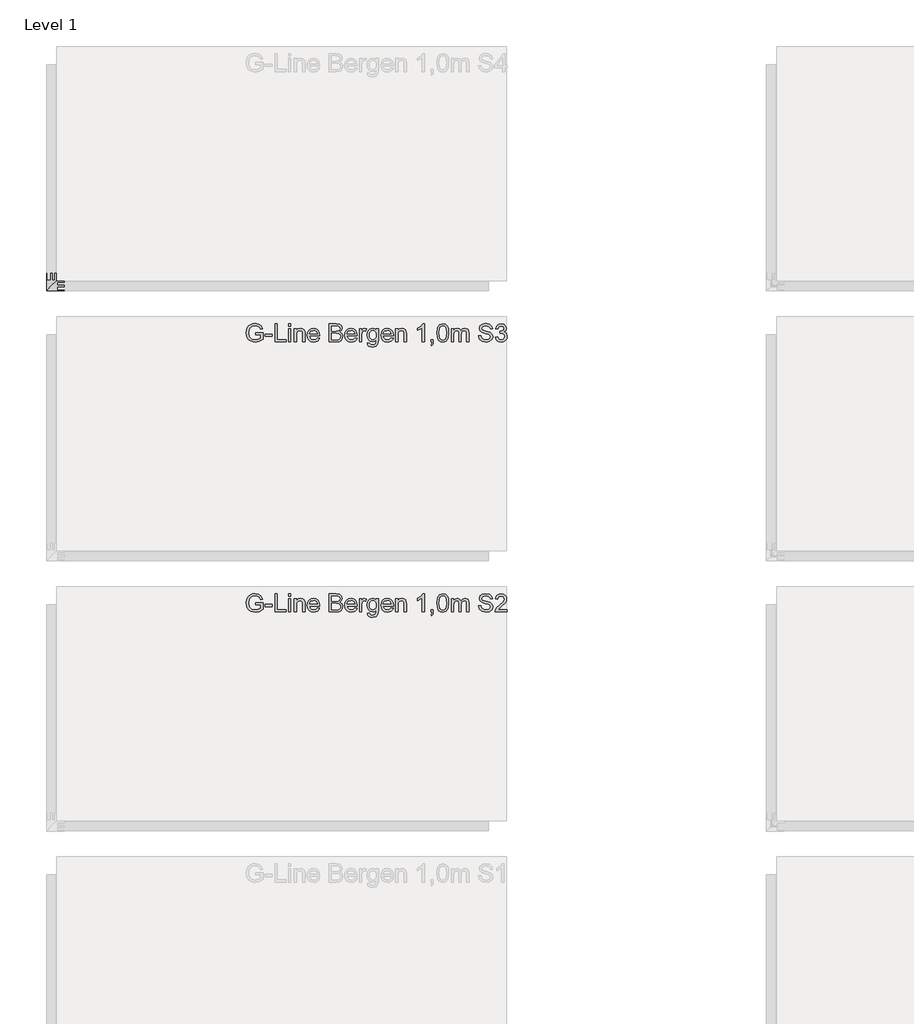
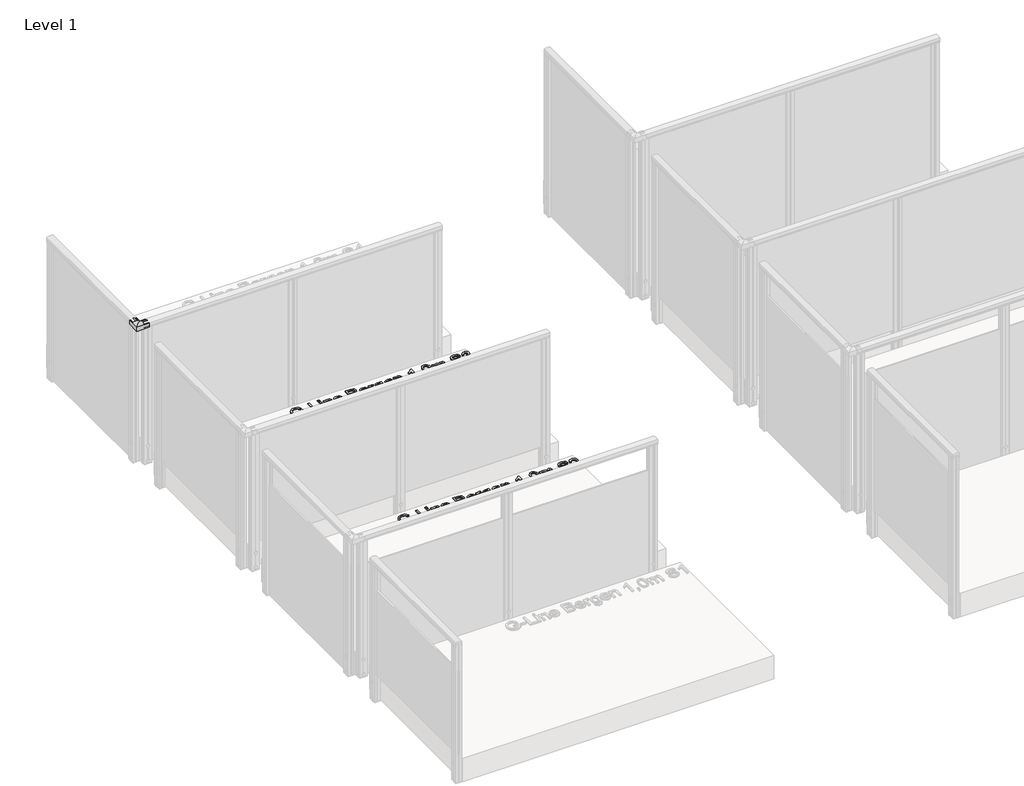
# One storey, part 57 of 66: 3 proxies.
"""IFC4 building model written with IfcOpenShell, lengths in millimetres."""

import ifcopenshell
import ifcopenshell.guid

model = None  # the IFC model being written
_history = None  # IfcOwnerHistory: only IFC2X3 demands one
_inside = {}  # id of a spatial element -> (the spatial element, [elements in it])
_under = {}  # id of a project, library or spatial element -> (it, [spatial elements below it])
_declared = {}  # id of a project -> (the project, [libraries it declares])
_typed = {}  # id of a type object -> (the type object, [elements of that type])
_made_of = {}  # id of a material, layer set ... -> (it, [elements and type objects made of it])


def new_model(schema):
    """Start an empty IFC model of exactly this schema.

    Asked for "IFC4X3", IfcOpenShell would pick the latest addendum, in which some entities
    have other attributes; the version numbers below select the first issue.
    IFC2X3 requires an IfcOwnerHistory on every rooted entity: one is made here for all.
    """
    global model, _history
    if schema == "IFC4X3":
        model = ifcopenshell.file(schema_version=(4, 3, 0, 0))
    else:
        model = ifcopenshell.file(schema=schema)
    _inside.clear()
    _under.clear()
    _declared.clear()
    _typed.clear()
    _made_of.clear()
    _history = None
    if model.schema == "IFC2X3":
        org = make("IfcOrganization", Name="unknown")
        user = make(
            "IfcPersonAndOrganization",
            ThePerson=make("IfcPerson", FamilyName="unknown"),
            TheOrganization=org,
        )
        app = make(
            "IfcApplication",
            ApplicationDeveloper=org,
            Version="unknown",
            ApplicationFullName="unknown",
            ApplicationIdentifier="unknown",
        )
        _history = make(
            "IfcOwnerHistory",
            OwningUser=user,
            OwningApplication=app,
            ChangeAction="ADDED",
            CreationDate=0,
        )
    return model


def make(cls, **values):
    """One entity of the class cls with the attributes given. An attribute that is None is left unset."""
    return model.create_entity(
        cls, **{name: value for name, value in values.items() if value is not None}
    )


def rooted(cls, **values):
    """An entity with a GlobalId (a new one), such as an element, a storey or a relation."""
    return make(cls, GlobalId=ifcopenshell.guid.new(), OwnerHistory=_history, **values)


def si_unit(unit_type, name, prefix=None):
    """IfcSIUnit, for example si_unit("LENGTHUNIT", "METRE", prefix="MILLI")."""
    return make("IfcSIUnit", UnitType=unit_type, Prefix=prefix, Name=name)


def assignment(units):
    """IfcUnitAssignment: the units of a project."""
    return None if units is None else make("IfcUnitAssignment", Units=units)


def point(xyz):
    """IfcCartesianPoint."""
    return None if xyz is None else make("IfcCartesianPoint", Coordinates=xyz)


def direction(xyz):
    """IfcDirection."""
    return None if xyz is None else make("IfcDirection", DirectionRatios=xyz)


def frame(location, z_axis=None, x_axis=None):
    """IfcAxis2Placement3D, a coordinate frame: its origin and axes. An axis left out is left unset."""
    return make(
        "IfcAxis2Placement3D",
        Location=point(location),
        Axis=direction(z_axis),
        RefDirection=direction(x_axis),
    )


def origin():
    """The frame at (0, 0, 0) with its axes left unset."""
    return frame((0.0, 0.0, 0.0))


def origin_with_axes():
    """The frame at (0, 0, 0) with the z axis (0, 0, 1) and the x axis (1, 0, 0) written out."""
    return frame((0.0, 0.0, 0.0), z_axis=(0.0, 0.0, 1.0), x_axis=(1.0, 0.0, 0.0))


def place(relative_to, where):
    """IfcLocalPlacement: puts the frame where relative to a parent placement (None: the world)."""
    return make(
        "IfcLocalPlacement", PlacementRelTo=relative_to, RelativePlacement=where
    )


def context(
    kind, dimensions, precision=None, world=None, true_north=None, identifier=None
):
    """IfcGeometricRepresentationContext, for example the 3D "Model" context."""
    return make(
        "IfcGeometricRepresentationContext",
        ContextIdentifier=identifier,
        ContextType=kind,
        CoordinateSpaceDimension=dimensions,
        Precision=precision,
        WorldCoordinateSystem=world,
        TrueNorth=true_north,
    )


def project(units=None, contexts=None):
    """IfcProject with its units and contexts."""
    return rooted(
        "IfcProject",
        Name="project",
        RepresentationContexts=contexts,
        UnitsInContext=assignment(units),
    )


def spatial(cls, under=None, at=None, **own):
    """A site, building, storey or space (cls), placed at a placement, below another one or the project."""
    s = rooted(cls, ObjectPlacement=at, **own)
    if under is not None:
        _under.setdefault(under.id(), (under, []))[1].append(s)
    return s


def polyline(points):
    """IfcPolyline through the points."""
    return make("IfcPolyline", Points=[point(p) for p in points])


def circle_curve(where, radius):
    """IfcCircle in the frame where."""
    return make("IfcCircle", Position=where, Radius=radius)


def ellipse_curve(where, semi_axis1, semi_axis2):
    """IfcEllipse in the frame where."""
    return make(
        "IfcEllipse", Position=where, SemiAxis1=semi_axis1, SemiAxis2=semi_axis2
    )


def outline(outer, holes=None, kind="AREA"):
    """IfcArbitraryClosedProfileDef: a profile drawn as a closed curve; with holes, ...WithVoids."""
    if holes is None:
        return make("IfcArbitraryClosedProfileDef", ProfileType=kind, OuterCurve=outer)
    return make(
        "IfcArbitraryProfileDefWithVoids",
        ProfileType=kind,
        OuterCurve=outer,
        InnerCurves=holes,
    )


def extrude(swept, where, along, depth):
    """IfcExtrudedAreaSolid: the profile swept, set in the frame where, extruded along a direction by depth."""
    return make(
        "IfcExtrudedAreaSolid",
        SweptArea=swept,
        Position=where,
        ExtrudedDirection=direction(along),
        Depth=depth,
    )


def shape(context_of_items, identifier, shape_type, items):
    """IfcShapeRepresentation: the items that make up one representation, for example the "Body"."""
    return make(
        "IfcShapeRepresentation",
        ContextOfItems=context_of_items,
        RepresentationIdentifier=identifier,
        RepresentationType=shape_type,
        Items=items,
    )


def source(mapping_origin, context_of_items, identifier, shape_type, items):
    """IfcRepresentationMap: a shape defined once, which mapped items show again and again."""
    return make(
        "IfcRepresentationMap",
        MappingOrigin=mapping_origin,
        MappedRepresentation=shape(context_of_items, identifier, shape_type, items),
    )


def transform(
    local_origin,
    x_axis=None,
    y_axis=None,
    z_axis=None,
    scale=None,
    scale2=None,
    scale3=None,
    uniform=True,
):
    """IfcCartesianTransformationOperator3D, or its non-uniform kind. x_axis, y_axis, z_axis: its Axis1, 2, 3."""
    if uniform:
        return make(
            "IfcCartesianTransformationOperator3D",
            Axis1=direction(x_axis),
            Axis2=direction(y_axis),
            LocalOrigin=point(local_origin),
            Scale=scale,
            Axis3=direction(z_axis),
        )
    return make(
        "IfcCartesianTransformationOperator3DnonUniform",
        Axis1=direction(x_axis),
        Axis2=direction(y_axis),
        LocalOrigin=point(local_origin),
        Scale=scale,
        Axis3=direction(z_axis),
        Scale2=scale2,
        Scale3=scale3,
    )


def mapped(mapping_source, mapping_target):
    """IfcMappedItem: shows the shape of a source again, moved by a transform."""
    return make(
        "IfcMappedItem", MappingSource=mapping_source, MappingTarget=mapping_target
    )


def made_of(thing, what):
    """Note that an element or type object is made of a material, layer set ...; save() writes the relation."""
    if what is not None:
        _made_of.setdefault(what.id(), (what, []))[1].append(thing)
    return thing


def element(
    cls,
    number,
    at=None,
    inside=None,
    cuts=None,
    type_object=None,
    material=None,
    context=None,
    identifier="Body",
    shape_type=None,
    held_by="IfcProductDefinitionShape",
    body=None,
    shapes=None,
    **own,
):
    """One element of the class cls, such as IfcWall. Its Tag is "e" and its number.

    at: its placement. inside: the storey or other place that contains it. cuts: it is an
    opening in that element (IfcRelVoidsElement). A single representation is given by context,
    identifier, shape_type and body (its items); several are given by shapes. held_by: the class
    of the entity that holds the representations. save() writes the other relations.
    """
    e = rooted(cls, Tag="e%d" % number, ObjectPlacement=at, **own)
    if body is not None:
        shapes = [shape(context, identifier, shape_type, body)]
    if shapes is not None:
        e.Representation = make(held_by, Representations=shapes)
    if inside is not None:
        _inside.setdefault(inside.id(), (inside, []))[1].append(e)
    if cuts is not None:
        rooted(
            "IfcRelVoidsElement", RelatingBuildingElement=cuts, RelatedOpeningElement=e
        )
    if type_object is not None:
        _typed.setdefault(type_object.id(), (type_object, []))[1].append(e)
    return made_of(e, material)


def aggregate(whole, parts):
    """IfcRelAggregates: a whole, such as a stair, and the parts it consists of."""
    return rooted("IfcRelAggregates", RelatingObject=whole, RelatedObjects=parts)


def save(model, path):
    """Write the relations noted so far, then the file.

    IfcRelAggregates (storeys below a building ...), IfcRelContainedInSpatialStructure (elements
    in a storey), IfcRelDefinesByType, IfcRelAssociatesMaterial and IfcRelDeclares: one each for
    every whole, place, type object, material and project.
    """
    for whole, parts in _under.values():
        aggregate(whole, parts)
    for where, things in _inside.values():
        rooted(
            "IfcRelContainedInSpatialStructure",
            RelatedElements=things,
            RelatingStructure=where,
        )
    for kind, things in _typed.values():
        rooted("IfcRelDefinesByType", RelatedObjects=things, RelatingType=kind)
    for what, things in _made_of.values():
        rooted("IfcRelAssociatesMaterial", RelatedObjects=things, RelatingMaterial=what)
    for by, libraries in _declared.values():
        rooted("IfcRelDeclares", RelatingContext=by, RelatedDefinitions=libraries)
    model.write(path)


def plane_surface(at):
    """IfcPlane: the flat surface through the origin of the frame at, square to its z axis."""
    return make("IfcPlane", Position=at)


def cylinder_surface(at, radius):
    """IfcCylindricalSurface: all points at the distance radius from the z axis of the frame at."""
    return make("IfcCylindricalSurface", Position=at, Radius=radius)


def revolved_surface(curve, axis_point, axis_direction):
    """IfcSurfaceOfRevolution: the curve turned about the line through axis_point along axis_direction."""
    return make(
        "IfcSurfaceOfRevolution",
        SweptCurve=make("IfcArbitraryOpenProfileDef", ProfileType="CURVE", Curve=curve),
        AxisPosition=make("IfcAxis1Placement", Location=point(axis_point), Axis=direction(axis_direction)),
    )


def advanced_brep(points, edges, surfaces, faces):
    """IfcAdvancedBrep: a solid bounded by faces that lie on surfaces and meet in shared edges.

    An edge is (start, end): straight between two places in points (the first is 0);
    or (start, end, curve); or (start, end, curve, False) where it runs against its curve.
    A face is (place in surfaces, loops), or (place, loops, False) where it looks against
    its surface's normal. A loop lists edges by number (the first is 1), with a minus sign
    where the edge is run from its end to its start. The first loop is the outer one.
    """
    corners = [point(p) for p in points]
    vertices = [make("IfcVertexPoint", VertexGeometry=c) for c in corners]
    made = []
    for start, end, *more in edges:
        made.append(
            make(
                "IfcEdgeCurve",
                EdgeStart=vertices[start],
                EdgeEnd=vertices[end],
                EdgeGeometry=more[0] if more else make("IfcPolyline", Points=[corners[start], corners[end]]),
                SameSense=more[1] if len(more) > 1 else True,
            )
        )
    hull = []
    for where, loops, *sense in faces:
        bounds = []
        for j, loop in enumerate(loops):
            ring = [make("IfcOrientedEdge", EdgeElement=made[abs(k) - 1], Orientation=k > 0) for k in loop]
            bounds.append(
                make(
                    "IfcFaceOuterBound" if j == 0 else "IfcFaceBound",
                    Bound=make("IfcEdgeLoop", EdgeList=ring),
                    Orientation=True,
                )
            )
        hull.append(make("IfcAdvancedFace", Bounds=bounds, FaceSurface=surfaces[where], SameSense=sense[0] if sense else True))
    return make("IfcAdvancedBrep", Outer=make("IfcClosedShell", CfsFaces=hull))


def generic_models_029e0633(model_context):
    return source(origin(), model_context, "Body", "AdvancedBrep", [
        advanced_brep(
        [(-26.7441608, 71.9513646, -5.1313999), (26.7547089, 71.9513646, -5.1421029), (26.7547089, 71.9513646, -42.9991934), (25.2598291, 71.9513646, -42.9991934), (25.2598291, 71.9513646, -5.8678927), (-25.2598291, 71.9513646, -5.8631127), (-25.2598291, 71.9513646, -42.9991934), (-26.7441608, 71.9513646, -42.9991934), (26.7547089, -26.754154, -5.1421029), (26.7547089, -26.754154, -42.9991934), (25.2598291, -25.2592742, -42.9991934), (25.2598291, -25.2592742, -5.8678927), (-25.2598291, 25.2603841, -5.8631127), (-25.2598291, 25.2603841, -42.9991934), (-26.7441608, 26.7447157, -42.9991934), (-26.7441608, 26.7447157, -5.1313999), (-71.964886, 26.7447157, -5.1313999), (-71.964886, 26.7447157, -42.9991934), (-71.964886, 25.2603841, -42.9991934), (-71.964886, 25.2603841, -5.8631127), (-71.964886, -25.2592742, -5.8678927), (-71.964886, -25.2592742, -42.9991934), (-71.964886, -26.754154, -42.9991934), (-71.964886, -26.754154, -5.1421029)],
        [
            (0, 1, circle_curve(frame((-0.0048689, 71.9513646, -55.8364469), z_axis=(0.0, 1.0, 0.0), x_axis=(1.0, 0.0, 0.0)), 57.3235687)),
            (1, 2),
            (2, 3),
            (3, 4),
            (4, 5, circle_curve(frame((-0.0048689, 71.9513646, -57.3235684), z_axis=(0.0, -1.0, 0.0), x_axis=(1.0, 0.0, 0.0)), 57.3235687)),
            (5, 6),
            (6, 7),
            (7, 0),
            (1, 8),
            (8, 9),
            (9, 2),
            (3, 10),
            (10, 11),
            (11, 4),
            (11, 12, ellipse_curve(frame((-0.0048689, 0.0054238, -57.3235684), z_axis=(-0.7071067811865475, -0.7071067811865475, 0.0), x_axis=(0.7071067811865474, -0.7071067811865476, 0.0)), 81.0677682, 57.3235687)),
            (12, 5),
            (12, 13),
            (13, 6),
            (7, 14),
            (14, 15),
            (15, 0),
            (16, 17),
            (17, 18),
            (18, 19),
            (19, 20, circle_curve(frame((-71.964886, 0.0054238, -57.3235684), z_axis=(1.0, 0.0, 0.0), x_axis=(0.0, -1.0, 0.0)), 57.3235687)),
            (20, 21),
            (21, 22),
            (22, 23),
            (23, 16, circle_curve(frame((-71.964886, 0.0054238, -55.8364469), z_axis=(-1.0, 0.0, 0.0), x_axis=(0.0, -1.0, 0.0)), 57.3235687)),
            (8, 23),
            (22, 9),
            (10, 21),
            (20, 11),
            (19, 12),
            (18, 13),
            (14, 17),
            (16, 15),
            (15, 8, ellipse_curve(frame((-0.0048689, 0.0054238, -55.8364469), z_axis=(0.7071067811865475, 0.7071067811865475, 0.0), x_axis=(-0.7071067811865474, 0.7071067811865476, 0.0)), 81.0677682, 57.3235687)),
        ],
        [
            plane_surface(frame((0.0, 71.9513646, 0.0), z_axis=(0.0, 1.0, 0.0), x_axis=(0.0, 0.0, 1.0))),
            plane_surface(frame((26.7547089, 71.9513646, -5.1421029), z_axis=(1.0, 0.0, 0.0), x_axis=(0.0, -1.0, 0.0))),
            plane_surface(frame((25.2598291, 71.9513646, -42.9991934), z_axis=(-1.0, 0.0, 0.0), x_axis=(0.0, -1.0, 0.0))),
            revolved_surface(polyline([(57.318699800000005, -57.318144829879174, -57.3235684), (57.318699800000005, 71.9513646, -57.3235684)]), (-0.0048689, 71.9513646, -57.3235684), (0.0, -1.0, 0.0)),
            plane_surface(frame((-25.2598291, 71.9513646, -5.8631127), z_axis=(1.0, 0.0, 0.0), x_axis=(0.0, -1.0, 0.0))),
            plane_surface(frame((-26.7441608, 71.9513646, -42.9991934), z_axis=(-1.0, 0.0, 0.0), x_axis=(0.0, -1.0, 0.0))),
            plane_surface(frame((-71.964886, 0.000555, 0.0), z_axis=(-1.0, 0.0, 0.0), x_axis=(0.0, 0.0, 1.0))),
            plane_surface(frame((26.7547089, -26.754154, -5.1421029), z_axis=(0.0, -1.0, 0.0), x_axis=(-1.0, 0.0, 0.0))),
            plane_surface(frame((25.2598291, -25.2592742, -42.9991934), z_axis=(0.0, 1.0, 0.0), x_axis=(-1.0, 0.0, 0.0))),
            revolved_surface(polyline([(-71.964886, -57.3181449, -57.3235684), (57.31869972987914, -57.3181449, -57.3235684)]), (0.0, 0.0054238, -57.3235684), (-1.0, 0.0, 0.0)),
            plane_surface(frame((-25.2598291, 25.2603841, -5.8631127), z_axis=(0.0, -1.0, 0.0), x_axis=(-1.0, 0.0, 0.0))),
            plane_surface(frame((-26.7441608, 26.7447157, -42.9991934), z_axis=(0.0, 1.0, 0.0), x_axis=(-1.0, 0.0, 0.0))),
            cylinder_surface(frame((-0.0048689, 71.9513646, -55.8364469), z_axis=(0.0, 1.0, 0.0), x_axis=(1.0, 0.0, 0.0)), 57.3235687),
            plane_surface(frame((26.7547089, 71.9513646, -42.9991934), z_axis=(0.0, 0.0, -1.0), x_axis=(0.0, -1.0, 0.0))),
            plane_surface(frame((-25.2598291, 71.9513646, -42.9991934), z_axis=(0.0, 0.0, -1.0), x_axis=(0.0, -1.0, 0.0))),
            cylinder_surface(frame((0.0, 0.0054238, -55.8364469), z_axis=(1.0, 0.0, 0.0), x_axis=(0.0, -1.0, 0.0)), 57.3235687),
        ],
        [
            (0, [[1, 2, 3, 4, 5, 6, 7, 8]]),
            (1, [[-2, 9, 10, 11]]),
            (2, [[-4, 12, 13, 14]]),
            (3, [[-5, -14, 15, 16]]),
            (4, [[-6, -16, 17, 18]]),
            (5, [[-8, 19, 20, 21]]),
            (6, [[22, 23, 24, 25, 26, 27, 28, 29]]),
            (7, [[-10, 30, -28, 31]]),
            (8, [[-13, 32, -26, 33]]),
            (9, [[-15, -33, -25, 34]]),
            (10, [[-17, -34, -24, 35]]),
            (11, [[-20, 36, -22, 37]]),
            (12, [[-1, -21, 38, -9]]),
            (13, [[-3, -11, -31, -27, -32, -12]]),
            (14, [[-7, -18, -35, -23, -36, -19]]),
            (15, [[-38, -37, -29, -30]]),
        ],
    ),
    ])


model = new_model("IFC4")

# Units and contexts
model_context = context("Model", 3, world=origin())
ifc_project = project(units=[si_unit("LENGTHUNIT", "METRE", prefix="MILLI")], contexts=[model_context])

# Site, building, storey
site = spatial("IfcSite", under=ifc_project)
building = spatial("IfcBuilding", under=site)
storey = spatial("IfcBuildingStorey", under=building, Name="Level 1", Elevation=0.0)

# Proxies
placement = place(None, origin())
generic_models_shape = generic_models_029e0633(model_context)
element("IfcBuildingElementProxy", 1, Name="Innore top rail 51x43 corner element : Innore top rail 51x43 element", ObjectType="Innore top rail 51x43 corner element : Innore top rail 51x43 element", at=placement, inside=storey, context=model_context, shape_type="MappedRepresentation", body=[
    mapped(generic_models_shape, transform((4466.5256066, 2988.9093698, 1000.0), x_axis=(0.0, -1.0, 0.0), y_axis=(1.0, 0.0, 0.0), z_axis=(0.0, 0.0, 1.0))),
])
element("IfcBuildingElementProxy", 2, Name="100mm Arial", ObjectType="100mm Arial", at=placement, inside=storey, context=model_context, shape_type="SweptSolid", body=[
    extrude(outline(polyline([(5601.1253773, 1218.1223441), (5601.1253773, 1230.6793828), (5641.9357533, 1230.6793828), (5641.9357533, 1193.1308939), (5621.7880827, 1181.2850936), (5600.4877152, 1177.3119681), (5586.4009005, 1178.890795), (5573.6691178, 1183.6272757), (5563.0925104, 1191.3558632), (5555.4712217, 1201.9110108), (5550.8634997, 1214.5722828), (5549.3275924, 1228.6192437), (5550.8573684, 1242.7673721), (5555.4466963, 1255.9283504), (5562.9055037, 1266.967876), (5573.0437184, 1274.7516459), (5585.3922907, 1279.3685649), (5599.4821711, 1280.9075379), (5619.1270696, 1277.3390826), (5632.898119, 1267.4062687), (5640.4887508, 1250.7902652), (5628.9127307, 1247.5283782), (5623.1860343, 1259.1411865), (5613.4003732, 1265.8366388), (5599.2859674, 1268.3504991), (5583.2095242, 1265.6404351), (5572.2711662, 1258.5280499), (5565.8087058, 1248.8527534), (5561.8846312, 1229.1342785), (5566.6057835, 1207.2452997), (5580.3400446, 1194.1487007), (5599.4821711, 1189.8690068), (5616.6622603, 1193.0941057), (5629.3787146, 1199.973499), (5629.3787146, 1218.1223441), (5601.1253773, 1218.1223441)])), origin_with_axes(), (0.0, 0.0, 1.0), 10.0),
    extrude(outline(polyline([(5654.4927921, 1208.704565), (5654.4927921, 1221.2616038), (5693.7335383, 1221.2616038), (5693.7335383, 1208.704565), (5654.4927921, 1208.704565)])), origin_with_axes(), (0.0, 0.0, 1.0), 10.0),
    extrude(outline(polyline([(5709.4298367, 1178.8815979), (5709.4298367, 1279.3379081), (5721.9868755, 1279.3379081), (5721.9868755, 1191.4386367), (5772.2150306, 1191.4386367), (5772.2150306, 1178.8815979), (5709.4298367, 1178.8815979)])), origin_with_axes(), (0.0, 0.0, 1.0), 10.0),
    extrude(outline(polyline([(5784.7720693, 1266.7808693), (5784.7720693, 1279.3379081), (5797.3291081, 1279.3379081), (5797.3291081, 1266.7808693), (5784.7720693, 1266.7808693)])), origin_with_axes(), (0.0, 0.0, 1.0), 10.0),
    extrude(outline(polyline([(5784.7720693, 1178.8815979), (5784.7720693, 1252.6542007), (5797.3291081, 1252.6542007), (5797.3291081, 1178.8815979), (5784.7720693, 1178.8815979)])), origin_with_axes(), (0.0, 0.0, 1.0), 10.0),
    extrude(outline(polyline([(5816.1646663, 1178.8815979), (5816.1646663, 1252.6542007), (5828.721705, 1252.6542007), (5828.721705, 1242.3535048), (5838.3234251, 1251.2562491), (5851.4322869, 1254.2238305), (5863.2903498, 1251.8325976), (5871.3837537, 1245.5540782), (5875.1484128, 1236.3202401), (5875.8106004, 1224.1801343), (5875.8106004, 1178.8815979), (5863.2535616, 1178.8815979), (5863.2535616, 1222.4878771), (5861.8065591, 1233.5979133), (5856.6929994, 1239.4717625), (5848.072298, 1241.6667918), (5834.4484014, 1236.737173), (5830.1533791, 1229.594131), (5828.721705, 1218.0242422), (5828.721705, 1178.8815979), (5816.1646663, 1178.8815979)])), origin_with_axes(), (0.0, 0.0, 1.0), 10.0),
    extrude(outline(polyline([(5944.7271608, 1200.8564158), (5957.0389449, 1199.2867859), (5952.6029012, 1190.0100283), (5945.5242385, 1183.0754527), (5935.9623723, 1178.7528392), (5924.0767182, 1177.3119681), (5909.3430443, 1179.7982372), (5898.0061474, 1187.2570447), (5890.7772662, 1199.2040125), (5888.3676392, 1215.1547626), (5890.8017917, 1231.6420074), (5898.1042493, 1243.9721856), (5909.287862, 1251.6609193), (5923.3654796, 1254.2238305), (5937.0047046, 1251.6670507), (5947.9032087, 1243.9967111), (5955.0493165, 1231.6910583), (5957.4313524, 1215.228339), (5957.357776, 1211.8438247), (5900.9246779, 1211.8438247), (5903.0982474, 1202.4444397), (5908.1474278, 1195.5343896), (5915.434557, 1191.2853525), (5924.3219728, 1189.8690068), (5936.6337569, 1192.4932317), (5944.7271608, 1200.8564158)]), holes=[polyline([(5900.9246779, 1224.4008635), (5944.8743136, 1224.4008635), (5939.846593, 1235.7806798), (5932.5257413, 1240.1952638), (5923.3164287, 1241.6667918), (5907.8531222, 1236.970165), (5902.9878828, 1231.4795262), (5900.9246779, 1224.4008635)])]), origin_with_axes(), (0.0, 0.0, 1.0), 10.0),
    extrude(outline(polyline([(6010.7987672, 1178.8815979), (6010.7987672, 1279.3379081), (6049.1320711, 1279.3379081), (6067.9063156, 1276.3825894), (6078.9918263, 1267.2959041), (6083.0017401, 1254.4445597), (6079.6294885, 1242.7091241), (6069.4391572, 1233.8186425), (6081.812255, 1224.4499144), (6086.1409998, 1208.8271923), (6083.1856811, 1195.3259231), (6075.8648294, 1185.7119403), (6064.9387341, 1180.6106433), (6048.8377655, 1178.8815979), (6010.7987672, 1178.8815979)]), holes=[polyline([(6023.3558059, 1238.5275321), (6046.287117, 1238.5275321), (6059.6780216, 1239.6066526), (6067.7346373, 1244.2542285), (6070.4447013, 1252.4334715), (6067.9185783, 1260.6249772), (6060.6835657, 1265.4687569), (6044.5458089, 1266.7808693), (6023.3558059, 1266.7808693), (6023.3558059, 1238.5275321)]), polyline([(6023.3558059, 1191.4386367), (6049.1075456, 1191.4386367), (6058.4272228, 1191.929146), (6066.3121602, 1194.6637355), (6071.5360846, 1200.2432791), (6073.583961, 1208.704565), (6071.1804653, 1218.4657006), (6063.3936297, 1224.2904989), (6047.8812723, 1225.9704933), (6023.3558059, 1225.9704933), (6023.3558059, 1191.4386367)])]), origin_with_axes(), (0.0, 0.0, 1.0), 10.0),
    extrude(outline(polyline([(6153.4879304, 1200.8564158), (6165.7997145, 1199.2867859), (6161.3636707, 1190.0100283), (6154.285008, 1183.0754527), (6144.7231418, 1178.7528392), (6132.8374877, 1177.3119681), (6118.1038138, 1179.7982372), (6106.766917, 1187.2570447), (6099.5380358, 1199.2040125), (6097.1284087, 1215.1547626), (6099.5625612, 1231.6420074), (6106.8650188, 1243.9721856), (6118.0486315, 1251.6609193), (6132.1262492, 1254.2238305), (6145.7654741, 1251.6670507), (6156.6639783, 1243.9967111), (6163.810086, 1231.6910583), (6166.1921219, 1215.228339), (6166.1185455, 1211.8438247), (6109.6854475, 1211.8438247), (6111.8590169, 1202.4444397), (6116.9081973, 1195.5343896), (6124.1953265, 1191.2853525), (6133.0827424, 1189.8690068), (6145.3945265, 1192.4932317), (6153.4879304, 1200.8564158)]), holes=[polyline([(6109.6854475, 1224.4008635), (6153.6350832, 1224.4008635), (6148.6073626, 1235.7806798), (6141.2865109, 1240.1952638), (6132.0771982, 1241.6667918), (6116.6138917, 1236.970165), (6111.7486523, 1231.4795262), (6109.6854475, 1224.4008635)])]), origin_with_axes(), (0.0, 0.0, 1.0), 10.0),
    extrude(outline(polyline([(6178.7491607, 1178.8815979), (6178.7491607, 1252.6542007), (6189.7365696, 1252.6542007), (6189.7365696, 1241.7403682), (6197.5356679, 1251.7958094), (6205.3838171, 1254.2238305), (6217.9899068, 1250.3488068), (6213.7960521, 1239.0916178), (6204.9668842, 1241.6667918), (6197.8667617, 1239.1897197), (6193.3418132, 1232.3225891), (6191.3061995, 1217.6563602), (6191.3061995, 1178.8815979), (6178.7491607, 1178.8815979)])), origin_with_axes(), (0.0, 0.0, 1.0), 10.0),
    extrude(outline(polyline([(6222.6987964, 1172.6030785), (6235.2558352, 1171.0334487), (6239.3270626, 1164.4115728), (6251.5162193, 1161.6156696), (6264.3675637, 1164.7794548), (6270.4989303, 1173.6576736), (6271.3573216, 1188.299377), (6262.515891, 1181.2360427), (6251.7369485, 1178.8815979), (6238.790568, 1181.6223188), (6229.1367313, 1189.8444814), (6223.1310577, 1201.8987481), (6221.1291665, 1216.1357813), (6224.7221474, 1235.5967388), (6235.1209451, 1249.3677882), (6251.1238119, 1254.2238305), (6262.3258186, 1251.4769783), (6271.3573216, 1243.2364216), (6271.3573216, 1252.6542007), (6283.9143604, 1252.6542007), (6283.9143604, 1188.9615646), (6280.4807951, 1164.5709883), (6269.6037508, 1153.2279601), (6251.2709647, 1149.0586308), (6239.5876456, 1150.5270931), (6230.3875301, 1154.93248), (6224.4860897, 1162.2870543), (6222.6987964, 1172.6030785)]), holes=[polyline([(6233.6862053, 1216.9941726), (6235.0259089, 1205.4764005), (6239.0450197, 1197.5577405), (6245.0874815, 1192.9684127), (6252.497238, 1191.4386367), (6259.8518122, 1192.9592156), (6265.9249308, 1197.5209523), (6269.9992239, 1205.3384447), (6271.3573216, 1216.6262906), (6269.95937, 1227.512532), (6265.7655153, 1235.3514842), (6259.6034919, 1240.0879649), (6252.3010343, 1241.6667918), (6245.130401, 1240.1124903), (6239.1185961, 1235.449586), (6235.044303, 1227.7271298), (6233.6862053, 1216.9941726)])]), origin_with_axes(), (0.0, 0.0, 1.0), 10.0),
    extrude(outline(polyline([(6354.4005507, 1200.8564158), (6366.7123348, 1199.2867859), (6362.276291, 1190.0100283), (6355.1976283, 1183.0754527), (6345.6357621, 1178.7528392), (6333.750108, 1177.3119681), (6319.0164341, 1179.7982372), (6307.6795373, 1187.2570447), (6300.4506561, 1199.2040125), (6298.041029, 1215.1547626), (6300.4751815, 1231.6420074), (6307.7776391, 1243.9721856), (6318.9612518, 1251.6609193), (6333.0388695, 1254.2238305), (6346.6780944, 1251.6670507), (6357.5765986, 1243.9967111), (6364.7227063, 1231.6910583), (6367.1047422, 1215.228339), (6367.0311658, 1211.8438247), (6310.5980678, 1211.8438247), (6312.7716372, 1202.4444397), (6317.8208176, 1195.5343896), (6325.1079468, 1191.2853525), (6333.9953627, 1189.8690068), (6346.3071468, 1192.4932317), (6354.4005507, 1200.8564158)]), holes=[polyline([(6310.5980678, 1224.4008635), (6354.5477035, 1224.4008635), (6349.5199829, 1235.7806798), (6342.1991312, 1240.1952638), (6332.9898185, 1241.6667918), (6317.526512, 1236.970165), (6312.6612726, 1231.4795262), (6310.5980678, 1224.4008635)])]), origin_with_axes(), (0.0, 0.0, 1.0), 10.0),
    extrude(outline(polyline([(6379.661781, 1178.8815979), (6379.661781, 1252.6542007), (6392.2188198, 1252.6542007), (6392.2188198, 1242.3535048), (6401.8205398, 1251.2562491), (6414.9294016, 1254.2238305), (6426.7874646, 1251.8325976), (6434.8808685, 1245.5540782), (6438.6455276, 1236.3202401), (6439.3077151, 1224.1801343), (6439.3077151, 1178.8815979), (6426.7506764, 1178.8815979), (6426.7506764, 1222.4878771), (6425.3036739, 1233.5979133), (6420.1901141, 1239.4717625), (6411.5694127, 1241.6667918), (6397.9455162, 1236.737173), (6393.6504939, 1229.594131), (6392.2188198, 1218.0242422), (6392.2188198, 1178.8815979), (6379.661781, 1178.8815979)])), origin_with_axes(), (0.0, 0.0, 1.0), 10.0),
    extrude(outline(polyline([(6539.7640253, 1178.8815979), (6527.2069865, 1178.8815979), (6527.2069865, 1257.1668865), (6515.3121354, 1248.6933379), (6502.092909, 1242.3535048), (6502.092909, 1254.2238305), (6520.4992715, 1265.9715289), (6531.6706214, 1279.3379081), (6539.7640253, 1279.3379081), (6539.7640253, 1178.8815979)])), origin_with_axes(), (0.0, 0.0, 1.0), 10.0),
    extrude(outline(polyline([(6575.8655118, 1178.8815979), (6575.8655118, 1191.4386367), (6588.4225505, 1191.4386367), (6588.4225505, 1178.8815979), (6586.1662076, 1166.0425163), (6579.0047714, 1158.4764099), (6575.8655118, 1163.1852995), (6580.4762994, 1168.6054275), (6582.1195057, 1178.8815979), (6575.8655118, 1178.8815979)])), origin_with_axes(), (0.0, 0.0, 1.0), 10.0),
    extrude(outline(polyline([(6608.8277385, 1228.3004126), (6612.5188212, 1257.2036747), (6623.4817047, 1273.8687291), (6641.7899653, 1279.3379081), (6656.4561942, 1276.1005465), (6666.5852118, 1266.7686066), (6672.4713237, 1251.906174), (6674.7521921, 1228.3004126), (6671.0978976, 1199.5197778), (6660.1718023, 1182.8179353), (6651.9404427, 1178.6884599), (6641.7899653, 1177.3119681), (6628.7424172, 1179.703201), (6618.8341288, 1186.8768999), (6611.3293361, 1203.8669168), (6608.8277385, 1228.3004126)]), holes=[polyline([(6621.3847773, 1228.3249381), (6622.8563053, 1208.5727406), (6627.2708892, 1197.1408076), (6633.8437142, 1191.686957), (6641.7899653, 1189.8690068), (6649.7362164, 1191.6930884), (6656.3090414, 1197.1653331), (6660.7236253, 1208.6033974), (6662.1951533, 1228.3249381), (6660.7726762, 1247.6326115), (6656.5052451, 1259.1534493), (6649.9446829, 1264.8740143), (6641.6428125, 1266.7808693), (6633.7824005, 1265.1008749), (6627.4670929, 1260.0608915), (6622.9053562, 1247.8226838), (6621.3847773, 1228.3249381)])]), origin_with_axes(), (0.0, 0.0, 1.0), 10.0),
    extrude(outline(polyline([(6688.8788607, 1178.8815979), (6688.8788607, 1252.6542007), (6701.4358994, 1252.6542007), (6701.4358994, 1240.5140948), (6710.0688636, 1250.4591714), (6722.3561222, 1254.2238305), (6734.9376865, 1250.385595), (6741.853868, 1239.6311781), (6751.6517918, 1250.5756674), (6764.0248896, 1254.2238305), (6773.4641284, 1252.7063173), (6780.4446893, 1248.1537776), (6784.7581057, 1240.4435841), (6786.1959111, 1229.4531095), (6786.1959111, 1178.8815979), (6773.6388724, 1178.8815979), (6773.6388724, 1224.0575069), (6772.4739127, 1234.5421438), (6768.2555325, 1239.7047545), (6761.0818336, 1241.6667918), (6748.7332613, 1236.6390712), (6745.0452443, 1230.096903), (6743.8159053, 1220.5258398), (6743.8159053, 1178.8815979), (6731.2588665, 1178.8815979), (6731.2588665, 1225.4554585), (6728.3525988, 1237.6200898), (6718.8244551, 1241.6667918), (6709.5293033, 1238.9689905), (6703.3488858, 1231.0717903), (6701.4358994, 1216.0867304), (6701.4358994, 1178.8815979), (6688.8788607, 1178.8815979)])), origin_with_axes(), (0.0, 0.0, 1.0), 10.0),
    extrude(outline(polyline([(6841.1329557, 1213.4134545), (6853.6899945, 1213.4134545), (6857.7366965, 1200.844153), (6867.6204594, 1192.8979019), (6882.6790957, 1189.8690068), (6895.8002202, 1192.1621379), (6904.2737689, 1198.4651828), (6907.0574093, 1206.8896805), (6904.9727446, 1214.725567), (6896.4378824, 1220.4277379), (6878.1541472, 1225.2224666), (6858.4724605, 1231.4151468), (6847.7916199, 1240.7593495), (6844.2722154, 1253.2428119), (6848.6254857, 1267.4553196), (6861.34194, 1277.4862354), (6879.956769, 1280.9075379), (6899.8223967, 1277.3268198), (6913.0661485, 1266.8053948), (6918.0448182, 1251.0845708), (6905.4877794, 1251.0845708), (6903.1823856, 1258.5771008), (6898.3753942, 1263.9849661), (6880.4472783, 1268.3504991), (6862.4701115, 1264.0340171), (6856.8292542, 1253.6106939), (6860.8269052, 1244.9041533), (6881.3301951, 1237.8898699), (6903.5502676, 1231.5868251), (6915.7026362, 1221.4087566), (6919.6144481, 1207.2085115), (6915.114025, 1192.1866634), (6902.1645787, 1181.22378), (6883.1696051, 1177.3119681), (6860.7410661, 1181.5303483), (6846.5530838, 1194.2345399), (6841.1329557, 1213.4134545)])), origin_with_axes(), (0.0, 0.0, 1.0), 10.0),
    extrude(outline(polyline([(6998.0959404, 1191.4386367), (6998.0959404, 1178.8815979), (6932.1714868, 1178.8815979), (6933.5203875, 1187.5390875), (6941.1478075, 1200.8686785), (6956.8686314, 1215.4245428), (6978.5491437, 1236.3447656), (6983.9692717, 1250.569536), (6978.855712, 1262.0842425), (6965.5015956, 1266.7808693), (6951.5833934, 1262.1946071), (6946.2981554, 1249.514941), (6933.7411167, 1251.0845708), (6936.7853402, 1263.230808), (6943.3673622, 1272.1028955), (6953.1438262, 1277.5291549), (6965.7713757, 1279.3379081), (6978.4908957, 1277.3268198), (6988.2489656, 1271.2935551), (6994.4569743, 1262.2804462), (6996.5263105, 1251.3298255), (6994.2944931, 1239.4227116), (6986.8755395, 1227.1109275), (6968.8861099, 1209.9063128), (6954.4406103, 1197.8275207), (6948.7752275, 1191.4386367), (6998.0959404, 1191.4386367)])), origin_with_axes(), (0.0, 0.0, 1.0), 10.0),
])
element("IfcBuildingElementProxy", 3, Name="100mm Arial", ObjectType="100mm Arial", at=placement, inside=storey, context=model_context, shape_type="SweptSolid", body=[
    extrude(outline(polyline([(5601.1253773, 2718.1223441), (5601.1253773, 2730.6793828), (5641.9357533, 2730.6793828), (5641.9357533, 2693.1308939), (5621.7880827, 2681.2850936), (5600.4877152, 2677.3119681), (5586.4009005, 2678.890795), (5573.6691178, 2683.6272757), (5563.0925104, 2691.3558632), (5555.4712217, 2701.9110108), (5550.8634997, 2714.5722828), (5549.3275924, 2728.6192437), (5550.8573684, 2742.7673721), (5555.4466963, 2755.9283504), (5562.9055037, 2766.967876), (5573.0437184, 2774.7516459), (5585.3922907, 2779.3685649), (5599.4821711, 2780.9075379), (5619.1270696, 2777.3390826), (5632.898119, 2767.4062687), (5640.4887508, 2750.7902652), (5628.9127307, 2747.5283782), (5623.1860343, 2759.1411865), (5613.4003732, 2765.8366388), (5599.2859674, 2768.3504991), (5583.2095242, 2765.6404351), (5572.2711662, 2758.5280499), (5565.8087058, 2748.8527534), (5561.8846312, 2729.1342785), (5566.6057835, 2707.2452997), (5580.3400446, 2694.1487007), (5599.4821711, 2689.8690068), (5616.6622603, 2693.0941057), (5629.3787146, 2699.973499), (5629.3787146, 2718.1223441), (5601.1253773, 2718.1223441)])), origin_with_axes(), (0.0, 0.0, 1.0), 10.0),
    extrude(outline(polyline([(5654.4927921, 2708.704565), (5654.4927921, 2721.2616038), (5693.7335383, 2721.2616038), (5693.7335383, 2708.704565), (5654.4927921, 2708.704565)])), origin_with_axes(), (0.0, 0.0, 1.0), 10.0),
    extrude(outline(polyline([(5709.4298367, 2678.8815979), (5709.4298367, 2779.3379081), (5721.9868755, 2779.3379081), (5721.9868755, 2691.4386367), (5772.2150306, 2691.4386367), (5772.2150306, 2678.8815979), (5709.4298367, 2678.8815979)])), origin_with_axes(), (0.0, 0.0, 1.0), 10.0),
    extrude(outline(polyline([(5784.7720693, 2766.7808693), (5784.7720693, 2779.3379081), (5797.3291081, 2779.3379081), (5797.3291081, 2766.7808693), (5784.7720693, 2766.7808693)])), origin_with_axes(), (0.0, 0.0, 1.0), 10.0),
    extrude(outline(polyline([(5784.7720693, 2678.8815979), (5784.7720693, 2752.6542007), (5797.3291081, 2752.6542007), (5797.3291081, 2678.8815979), (5784.7720693, 2678.8815979)])), origin_with_axes(), (0.0, 0.0, 1.0), 10.0),
    extrude(outline(polyline([(5816.1646663, 2678.8815979), (5816.1646663, 2752.6542007), (5828.721705, 2752.6542007), (5828.721705, 2742.3535048), (5838.3234251, 2751.2562491), (5851.4322869, 2754.2238305), (5863.2903498, 2751.8325976), (5871.3837537, 2745.5540782), (5875.1484128, 2736.3202401), (5875.8106004, 2724.1801343), (5875.8106004, 2678.8815979), (5863.2535616, 2678.8815979), (5863.2535616, 2722.4878771), (5861.8065591, 2733.5979133), (5856.6929994, 2739.4717625), (5848.072298, 2741.6667918), (5834.4484014, 2736.737173), (5830.1533791, 2729.594131), (5828.721705, 2718.0242422), (5828.721705, 2678.8815979), (5816.1646663, 2678.8815979)])), origin_with_axes(), (0.0, 0.0, 1.0), 10.0),
    extrude(outline(polyline([(5944.7271608, 2700.8564158), (5957.0389449, 2699.2867859), (5952.6029012, 2690.0100283), (5945.5242385, 2683.0754527), (5935.9623723, 2678.7528392), (5924.0767182, 2677.3119681), (5909.3430443, 2679.7982372), (5898.0061474, 2687.2570447), (5890.7772662, 2699.2040125), (5888.3676392, 2715.1547626), (5890.8017917, 2731.6420074), (5898.1042493, 2743.9721856), (5909.287862, 2751.6609193), (5923.3654796, 2754.2238305), (5937.0047046, 2751.6670507), (5947.9032087, 2743.9967111), (5955.0493165, 2731.6910583), (5957.4313524, 2715.228339), (5957.357776, 2711.8438247), (5900.9246779, 2711.8438247), (5903.0982474, 2702.4444397), (5908.1474278, 2695.5343896), (5915.434557, 2691.2853525), (5924.3219728, 2689.8690068), (5936.6337569, 2692.4932317), (5944.7271608, 2700.8564158)]), holes=[polyline([(5900.9246779, 2724.4008635), (5944.8743136, 2724.4008635), (5939.846593, 2735.7806798), (5932.5257413, 2740.1952638), (5923.3164287, 2741.6667918), (5907.8531222, 2736.970165), (5902.9878828, 2731.4795262), (5900.9246779, 2724.4008635)])]), origin_with_axes(), (0.0, 0.0, 1.0), 10.0),
    extrude(outline(polyline([(6010.7987672, 2678.8815979), (6010.7987672, 2779.3379081), (6049.1320711, 2779.3379081), (6067.9063156, 2776.3825894), (6078.9918263, 2767.2959041), (6083.0017401, 2754.4445597), (6079.6294885, 2742.7091241), (6069.4391572, 2733.8186425), (6081.812255, 2724.4499144), (6086.1409998, 2708.8271923), (6083.1856811, 2695.3259231), (6075.8648294, 2685.7119403), (6064.9387341, 2680.6106433), (6048.8377655, 2678.8815979), (6010.7987672, 2678.8815979)]), holes=[polyline([(6023.3558059, 2738.5275321), (6046.287117, 2738.5275321), (6059.6780216, 2739.6066526), (6067.7346373, 2744.2542285), (6070.4447013, 2752.4334715), (6067.9185783, 2760.6249772), (6060.6835657, 2765.4687569), (6044.5458089, 2766.7808693), (6023.3558059, 2766.7808693), (6023.3558059, 2738.5275321)]), polyline([(6023.3558059, 2691.4386367), (6049.1075456, 2691.4386367), (6058.4272228, 2691.929146), (6066.3121602, 2694.6637355), (6071.5360846, 2700.2432791), (6073.583961, 2708.704565), (6071.1804653, 2718.4657006), (6063.3936297, 2724.2904989), (6047.8812723, 2725.9704933), (6023.3558059, 2725.9704933), (6023.3558059, 2691.4386367)])]), origin_with_axes(), (0.0, 0.0, 1.0), 10.0),
    extrude(outline(polyline([(6153.4879304, 2700.8564158), (6165.7997145, 2699.2867859), (6161.3636707, 2690.0100283), (6154.285008, 2683.0754527), (6144.7231418, 2678.7528392), (6132.8374877, 2677.3119681), (6118.1038138, 2679.7982372), (6106.766917, 2687.2570447), (6099.5380358, 2699.2040125), (6097.1284087, 2715.1547626), (6099.5625612, 2731.6420074), (6106.8650188, 2743.9721856), (6118.0486315, 2751.6609193), (6132.1262492, 2754.2238305), (6145.7654741, 2751.6670507), (6156.6639783, 2743.9967111), (6163.810086, 2731.6910583), (6166.1921219, 2715.228339), (6166.1185455, 2711.8438247), (6109.6854475, 2711.8438247), (6111.8590169, 2702.4444397), (6116.9081973, 2695.5343896), (6124.1953265, 2691.2853525), (6133.0827424, 2689.8690068), (6145.3945265, 2692.4932317), (6153.4879304, 2700.8564158)]), holes=[polyline([(6109.6854475, 2724.4008635), (6153.6350832, 2724.4008635), (6148.6073626, 2735.7806798), (6141.2865109, 2740.1952638), (6132.0771982, 2741.6667918), (6116.6138917, 2736.970165), (6111.7486523, 2731.4795262), (6109.6854475, 2724.4008635)])]), origin_with_axes(), (0.0, 0.0, 1.0), 10.0),
    extrude(outline(polyline([(6178.7491607, 2678.8815979), (6178.7491607, 2752.6542007), (6189.7365696, 2752.6542007), (6189.7365696, 2741.7403682), (6197.5356679, 2751.7958094), (6205.3838171, 2754.2238305), (6217.9899068, 2750.3488068), (6213.7960521, 2739.0916178), (6204.9668842, 2741.6667918), (6197.8667617, 2739.1897197), (6193.3418132, 2732.3225891), (6191.3061995, 2717.6563602), (6191.3061995, 2678.8815979), (6178.7491607, 2678.8815979)])), origin_with_axes(), (0.0, 0.0, 1.0), 10.0),
    extrude(outline(polyline([(6222.6987964, 2672.6030785), (6235.2558352, 2671.0334487), (6239.3270626, 2664.4115728), (6251.5162193, 2661.6156696), (6264.3675637, 2664.7794548), (6270.4989303, 2673.6576736), (6271.3573216, 2688.299377), (6262.515891, 2681.2360427), (6251.7369485, 2678.8815979), (6238.790568, 2681.6223188), (6229.1367313, 2689.8444814), (6223.1310577, 2701.8987481), (6221.1291665, 2716.1357813), (6224.7221474, 2735.5967388), (6235.1209451, 2749.3677882), (6251.1238119, 2754.2238305), (6262.3258186, 2751.4769783), (6271.3573216, 2743.2364216), (6271.3573216, 2752.6542007), (6283.9143604, 2752.6542007), (6283.9143604, 2688.9615646), (6280.4807951, 2664.5709883), (6269.6037508, 2653.2279601), (6251.2709647, 2649.0586308), (6239.5876456, 2650.5270931), (6230.3875301, 2654.93248), (6224.4860897, 2662.2870543), (6222.6987964, 2672.6030785)]), holes=[polyline([(6233.6862053, 2716.9941726), (6235.0259089, 2705.4764005), (6239.0450197, 2697.5577405), (6245.0874815, 2692.9684127), (6252.497238, 2691.4386367), (6259.8518122, 2692.9592156), (6265.9249308, 2697.5209523), (6269.9992239, 2705.3384447), (6271.3573216, 2716.6262906), (6269.95937, 2727.512532), (6265.7655153, 2735.3514842), (6259.6034919, 2740.0879649), (6252.3010343, 2741.6667918), (6245.130401, 2740.1124903), (6239.1185961, 2735.449586), (6235.044303, 2727.7271298), (6233.6862053, 2716.9941726)])]), origin_with_axes(), (0.0, 0.0, 1.0), 10.0),
    extrude(outline(polyline([(6354.4005507, 2700.8564158), (6366.7123348, 2699.2867859), (6362.276291, 2690.0100283), (6355.1976283, 2683.0754527), (6345.6357621, 2678.7528392), (6333.750108, 2677.3119681), (6319.0164341, 2679.7982372), (6307.6795373, 2687.2570447), (6300.4506561, 2699.2040125), (6298.041029, 2715.1547626), (6300.4751815, 2731.6420074), (6307.7776391, 2743.9721856), (6318.9612518, 2751.6609193), (6333.0388695, 2754.2238305), (6346.6780944, 2751.6670507), (6357.5765986, 2743.9967111), (6364.7227063, 2731.6910583), (6367.1047422, 2715.228339), (6367.0311658, 2711.8438247), (6310.5980678, 2711.8438247), (6312.7716372, 2702.4444397), (6317.8208176, 2695.5343896), (6325.1079468, 2691.2853525), (6333.9953627, 2689.8690068), (6346.3071468, 2692.4932317), (6354.4005507, 2700.8564158)]), holes=[polyline([(6310.5980678, 2724.4008635), (6354.5477035, 2724.4008635), (6349.5199829, 2735.7806798), (6342.1991312, 2740.1952638), (6332.9898185, 2741.6667918), (6317.526512, 2736.970165), (6312.6612726, 2731.4795262), (6310.5980678, 2724.4008635)])]), origin_with_axes(), (0.0, 0.0, 1.0), 10.0),
    extrude(outline(polyline([(6379.661781, 2678.8815979), (6379.661781, 2752.6542007), (6392.2188198, 2752.6542007), (6392.2188198, 2742.3535048), (6401.8205398, 2751.2562491), (6414.9294016, 2754.2238305), (6426.7874646, 2751.8325976), (6434.8808685, 2745.5540782), (6438.6455276, 2736.3202401), (6439.3077151, 2724.1801343), (6439.3077151, 2678.8815979), (6426.7506764, 2678.8815979), (6426.7506764, 2722.4878771), (6425.3036739, 2733.5979133), (6420.1901141, 2739.4717625), (6411.5694127, 2741.6667918), (6397.9455162, 2736.737173), (6393.6504939, 2729.594131), (6392.2188198, 2718.0242422), (6392.2188198, 2678.8815979), (6379.661781, 2678.8815979)])), origin_with_axes(), (0.0, 0.0, 1.0), 10.0),
    extrude(outline(polyline([(6539.7640253, 2678.8815979), (6527.2069865, 2678.8815979), (6527.2069865, 2757.1668865), (6515.3121354, 2748.6933379), (6502.092909, 2742.3535048), (6502.092909, 2754.2238305), (6520.4992715, 2765.9715289), (6531.6706214, 2779.3379081), (6539.7640253, 2779.3379081), (6539.7640253, 2678.8815979)])), origin_with_axes(), (0.0, 0.0, 1.0), 10.0),
    extrude(outline(polyline([(6575.8655118, 2678.8815979), (6575.8655118, 2691.4386367), (6588.4225505, 2691.4386367), (6588.4225505, 2678.8815979), (6586.1662076, 2666.0425163), (6579.0047714, 2658.4764099), (6575.8655118, 2663.1852995), (6580.4762994, 2668.6054275), (6582.1195057, 2678.8815979), (6575.8655118, 2678.8815979)])), origin_with_axes(), (0.0, 0.0, 1.0), 10.0),
    extrude(outline(polyline([(6608.8277385, 2728.3004126), (6612.5188212, 2757.2036747), (6623.4817047, 2773.8687291), (6641.7899653, 2779.3379081), (6656.4561942, 2776.1005465), (6666.5852118, 2766.7686066), (6672.4713237, 2751.906174), (6674.7521921, 2728.3004126), (6671.0978976, 2699.5197778), (6660.1718023, 2682.8179353), (6651.9404427, 2678.6884599), (6641.7899653, 2677.3119681), (6628.7424172, 2679.703201), (6618.8341288, 2686.8768999), (6611.3293361, 2703.8669168), (6608.8277385, 2728.3004126)]), holes=[polyline([(6621.3847773, 2728.3249381), (6622.8563053, 2708.5727406), (6627.2708892, 2697.1408076), (6633.8437142, 2691.686957), (6641.7899653, 2689.8690068), (6649.7362164, 2691.6930884), (6656.3090414, 2697.1653331), (6660.7236253, 2708.6033974), (6662.1951533, 2728.3249381), (6660.7726762, 2747.6326115), (6656.5052451, 2759.1534493), (6649.9446829, 2764.8740143), (6641.6428125, 2766.7808693), (6633.7824005, 2765.1008749), (6627.4670929, 2760.0608915), (6622.9053562, 2747.8226838), (6621.3847773, 2728.3249381)])]), origin_with_axes(), (0.0, 0.0, 1.0), 10.0),
    extrude(outline(polyline([(6688.8788607, 2678.8815979), (6688.8788607, 2752.6542007), (6701.4358994, 2752.6542007), (6701.4358994, 2740.5140948), (6710.0688636, 2750.4591714), (6722.3561222, 2754.2238305), (6734.9376865, 2750.385595), (6741.853868, 2739.6311781), (6751.6517918, 2750.5756674), (6764.0248896, 2754.2238305), (6773.4641284, 2752.7063173), (6780.4446893, 2748.1537776), (6784.7581057, 2740.4435841), (6786.1959111, 2729.4531095), (6786.1959111, 2678.8815979), (6773.6388724, 2678.8815979), (6773.6388724, 2724.0575069), (6772.4739127, 2734.5421438), (6768.2555325, 2739.7047545), (6761.0818336, 2741.6667918), (6748.7332613, 2736.6390712), (6745.0452443, 2730.096903), (6743.8159053, 2720.5258398), (6743.8159053, 2678.8815979), (6731.2588665, 2678.8815979), (6731.2588665, 2725.4554585), (6728.3525988, 2737.6200898), (6718.8244551, 2741.6667918), (6709.5293033, 2738.9689905), (6703.3488858, 2731.0717903), (6701.4358994, 2716.0867304), (6701.4358994, 2678.8815979), (6688.8788607, 2678.8815979)])), origin_with_axes(), (0.0, 0.0, 1.0), 10.0),
    extrude(outline(polyline([(6841.1329557, 2713.4134545), (6853.6899945, 2713.4134545), (6857.7366965, 2700.844153), (6867.6204594, 2692.8979019), (6882.6790957, 2689.8690068), (6895.8002202, 2692.1621379), (6904.2737689, 2698.4651828), (6907.0574093, 2706.8896805), (6904.9727446, 2714.725567), (6896.4378824, 2720.4277379), (6878.1541472, 2725.2224666), (6858.4724605, 2731.4151468), (6847.7916199, 2740.7593495), (6844.2722154, 2753.2428119), (6848.6254857, 2767.4553196), (6861.34194, 2777.4862354), (6879.956769, 2780.9075379), (6899.8223967, 2777.3268198), (6913.0661485, 2766.8053948), (6918.0448182, 2751.0845708), (6905.4877794, 2751.0845708), (6903.1823856, 2758.5771008), (6898.3753942, 2763.9849661), (6880.4472783, 2768.3504991), (6862.4701115, 2764.0340171), (6856.8292542, 2753.6106939), (6860.8269052, 2744.9041533), (6881.3301951, 2737.8898699), (6903.5502676, 2731.5868251), (6915.7026362, 2721.4087566), (6919.6144481, 2707.2085115), (6915.114025, 2692.1866634), (6902.1645787, 2681.22378), (6883.1696051, 2677.3119681), (6860.7410661, 2681.5303483), (6846.5530838, 2694.2345399), (6841.1329557, 2713.4134545)])), origin_with_axes(), (0.0, 0.0, 1.0), 10.0),
    extrude(outline(polyline([(6933.7411167, 2705.5653053), (6946.2981554, 2707.1349351), (6953.2265997, 2693.9157088), (6966.1883086, 2689.8690068), (6974.7967473, 2691.2608271), (6981.4431487, 2695.4362877), (6987.1085314, 2709.2195998), (6981.4921996, 2722.2058342), (6967.2183782, 2727.3439194), (6958.4137358, 2725.9704933), (6959.8116874, 2738.5275321), (6961.8227756, 2738.3803793), (6976.0720716, 2741.9856228), (6980.8177493, 2746.5596223), (6982.3996419, 2753.0711336), (6977.8133797, 2762.8935829), (6965.9921049, 2766.7808693), (6954.0236773, 2762.8567947), (6947.8677853, 2751.0845708), (6935.3107465, 2752.6542007), (6939.0079606, 2763.9297838), (6945.5869169, 2772.3481502), (6954.5877631, 2777.5904686), (6965.5506465, 2779.3379081), (6980.695122, 2775.89208), (6991.2901234, 2766.474301), (6994.9566807, 2753.8068976), (6991.4740644, 2742.2308775), (6981.1733686, 2733.9167444), (6994.8585788, 2725.3328312), (6999.6655702, 2708.9988706), (6997.2620745, 2696.7606629), (6990.0515874, 2686.5335434), (6979.1684117, 2679.6173619), (6965.7468502, 2677.3119681), (6953.6067444, 2679.2801367), (6943.7229815, 2685.1846428), (6936.8497195, 2694.2161458), (6933.7411167, 2705.5653053)])), origin_with_axes(), (0.0, 0.0, 1.0), 10.0),
])

save(model, "model.ifc")
